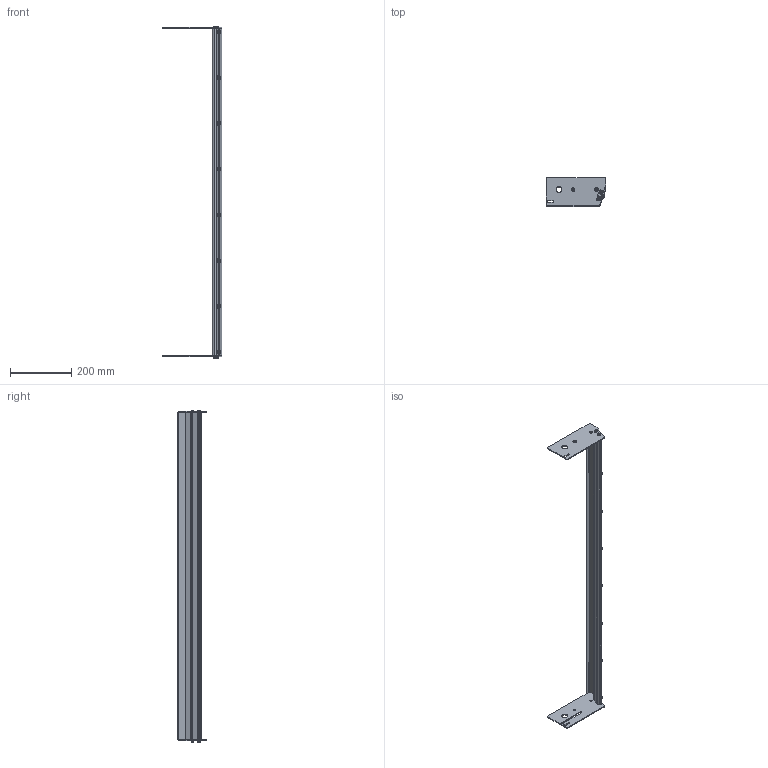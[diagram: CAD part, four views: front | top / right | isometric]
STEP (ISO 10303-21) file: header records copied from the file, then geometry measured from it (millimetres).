
FILE_DESCRIPTION((''),'2;1');
FILE_NAME('351199-42_ASM','2023-03-15T',('jenni.wallner'),(''),'PRO/ENGINEER BY PARAMETRIC TECHNOLOGY CORPORATION, 2012420','PRO/ENGINEER BY PARAMETRIC TECHNOLOGY CORPORATION, 2012420','');
FILE_SCHEMA(('CONFIG_CONTROL_DESIGN'));
Length unit declared in the file: inch
Products named in the file (10): 351203-WW_351203-42; 9506XXM_950612M; 351200_DEFAULT_AS_MACHINED_; 990603M; 605279P; 351201; 9505XXM_950512M; 351202-WW_351202-42; ASM0001_ASM; 351199-42_ASM
Assembly tree (33 placements, depth 3):
  351199-42_ASM
    ASM0001_ASM
      351203-WW_351203-42
      9506XXM_950612M  x8
      351200_DEFAULT_AS_MACHINED_
      990603M  x8
      605279P  x8
      351201
      9505XXM_950512M  x4
      351202-WW_351202-42
Bounding box: 196.11 x 93.08 x 1085.89 mm (x, y, z)
Volume: 534280.7 mm3; surface area: 438546.4 mm2
Topology: 32 solids, 32 shells, 583 faces, 1367 edges, 872 vertices
Faces by surface type: plane 270, cylinder 197, cone 116
Entity records: 8858 total; most frequent: DIRECTION 1618, CARTESIAN_POINT 1600, ORIENTED_EDGE 1376, EDGE_CURVE 688, AXIS2_PLACEMENT_3D 615, VERTEX_POINT 452, VECTOR 388, LINE 388
